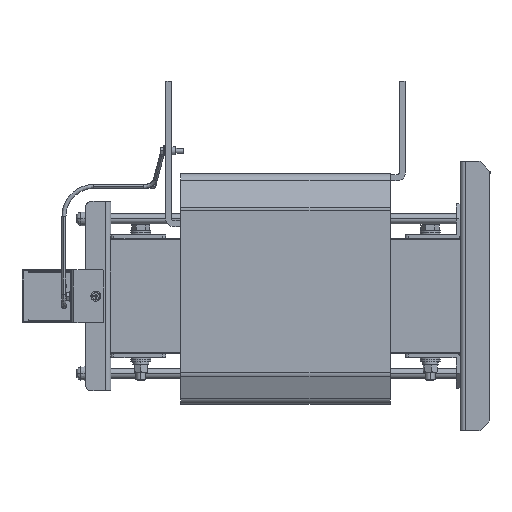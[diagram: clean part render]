
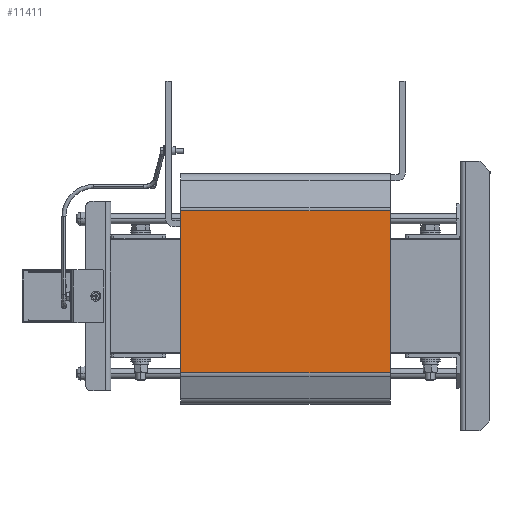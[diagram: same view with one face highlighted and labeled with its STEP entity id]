
A CAD part, left-side view. The second image highlights one B-rep face of the part: STEP entity #11411.
In plain terms, the highlighted planar face has unit normal (-1, 0, 0).
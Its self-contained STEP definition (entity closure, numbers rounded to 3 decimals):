
#1752 = DIRECTION ( 'NONE',  ( 0., 0., -1. ) ) ;
#1884 = FACE_OUTER_BOUND ( 'NONE', #20180, .T. ) ;
#3208 = VECTOR ( 'NONE', #21891, 1000. ) ;
#4109 = ORIENTED_EDGE ( 'NONE', *, *, #63876, .F. ) ;
#6599 = CARTESIAN_POINT ( 'NONE',  ( -61., 105., 85.833 ) ) ;
#11411 = ADVANCED_FACE ( 'NONE', ( #1884 ), #41779, .T. ) ;
#11508 = DIRECTION ( 'NONE',  ( 0., 1., 0. ) ) ;
#11869 = VERTEX_POINT ( 'NONE', #23826 ) ;
#14211 = DIRECTION ( 'NONE',  ( -1., 0., 0. ) ) ;
#15199 = DIRECTION ( 'NONE',  ( 0., 0., -1. ) ) ;
#15480 = DIRECTION ( 'NONE',  ( 0., 0., 1. ) ) ;
#20180 = EDGE_LOOP ( 'NONE', ( #4109, #52409, #58784, #25290 ) ) ;
#21891 = DIRECTION ( 'NONE',  ( 0., 1., 0. ) ) ;
#23826 = CARTESIAN_POINT ( 'NONE',  ( -61., 105., -76.574 ) ) ;
#25290 = ORIENTED_EDGE ( 'NONE', *, *, #42449, .F. ) ;
#26992 = CARTESIAN_POINT ( 'NONE',  ( -61., -105., -76.574 ) ) ;
#30296 = VERTEX_POINT ( 'NONE', #6599 ) ;
#30520 = CARTESIAN_POINT ( 'NONE',  ( -61., -105., -76.574 ) ) ;
#32068 = EDGE_CURVE ( 'NONE', #30296, #11869, #72702, .T. ) ;
#33800 = VERTEX_POINT ( 'NONE', #30520 ) ;
#37501 = VECTOR ( 'NONE', #15199, 1000. ) ;
#41779 = PLANE ( 'NONE',  #50976 ) ;
#42449 = EDGE_CURVE ( 'NONE', #33800, #11869, #46071, .T. ) ;
#45975 = CARTESIAN_POINT ( 'NONE',  ( -61., -105., 85.833 ) ) ;
#46071 = LINE ( 'NONE', #26992, #3208 ) ;
#47140 = VECTOR ( 'NONE', #11508, 1000. ) ;
#50976 = AXIS2_PLACEMENT_3D ( 'NONE', #72399, #14211, #15480 ) ;
#51598 = VECTOR ( 'NONE', #1752, 1000. ) ;
#52409 = ORIENTED_EDGE ( 'NONE', *, *, #82929, .T. ) ;
#53735 = CARTESIAN_POINT ( 'NONE',  ( -61., -105., 0. ) ) ;
#56911 = LINE ( 'NONE', #69718, #47140 ) ;
#58784 = ORIENTED_EDGE ( 'NONE', *, *, #32068, .T. ) ;
#63876 = EDGE_CURVE ( 'NONE', #66906, #33800, #66093, .T. ) ;
#65840 = CARTESIAN_POINT ( 'NONE',  ( -61., 105., 0. ) ) ;
#66093 = LINE ( 'NONE', #53735, #37501 ) ;
#66906 = VERTEX_POINT ( 'NONE', #45975 ) ;
#69718 = CARTESIAN_POINT ( 'NONE',  ( -61., -105., 85.833 ) ) ;
#72399 = CARTESIAN_POINT ( 'NONE',  ( -61., -105., -78.5 ) ) ;
#72702 = LINE ( 'NONE', #65840, #51598 ) ;
#82929 = EDGE_CURVE ( 'NONE', #66906, #30296, #56911, .T. ) ;
